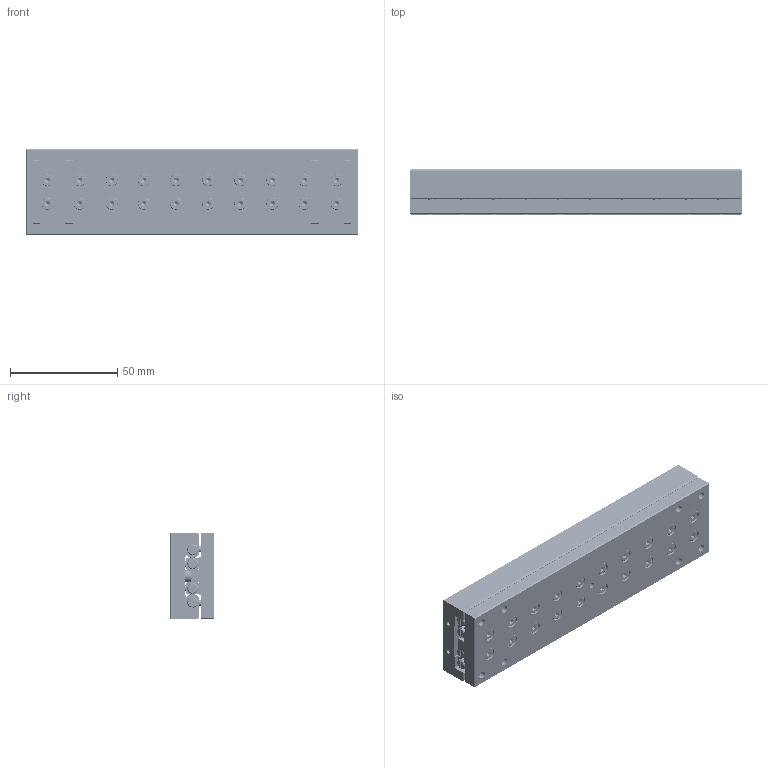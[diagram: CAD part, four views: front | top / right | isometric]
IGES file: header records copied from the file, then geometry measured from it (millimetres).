
Start section: SolidWorks IGES file using analytic representation for surfaces
Global section: file name: C:\Documents and Settings\IanO.IANOHOME\My Documents\Wix and Auto CAD Work\CAD Models\Parametric Models\Auto Models\L1020\L1020_IGES\L1020.040-155.igs; native system: SolidWorks 2009; preprocessor: SolidWorks 2009; author: IanO; date: 110922.162523; units: millimetre
Bounding box: 155 x 21 x 40 mm (x, y, z)
Surface area: 69471.6 mm2 (no closed solid volume)
Topology: 0 solids, 0 shells, 2657 faces, 35052 edges, 34952 vertices
Faces by surface type: bspline 1621, revolution 1036
